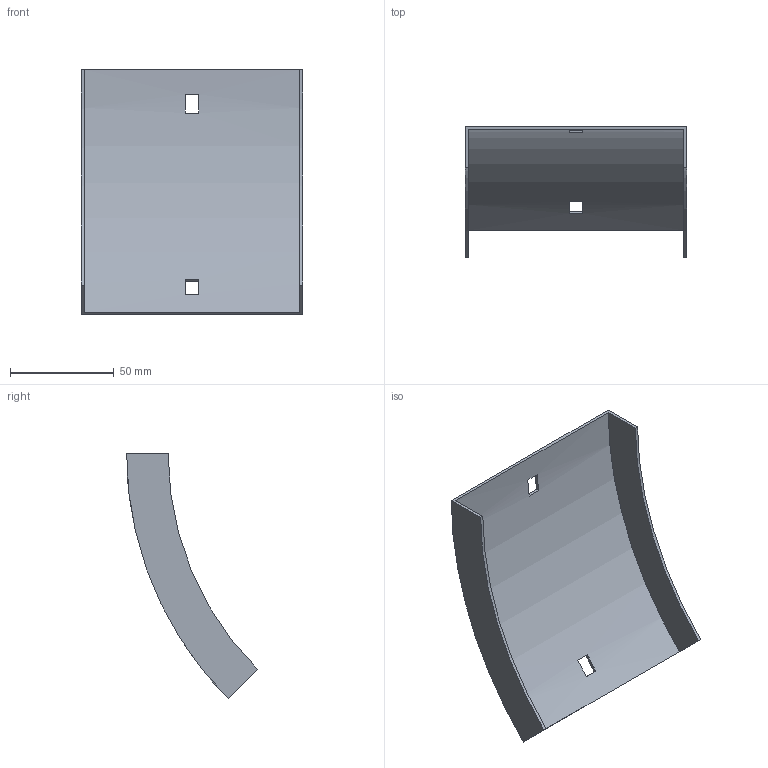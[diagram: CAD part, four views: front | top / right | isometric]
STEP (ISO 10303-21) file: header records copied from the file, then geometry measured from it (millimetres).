
FILE_DESCRIPTION (( 'STEP AP214' ), '1' );
FILE_NAME ('34N1H100.step', '2025-02-21T09:15:20', ( '' ), ( '' ), 'SwSTEP 2.0', 'SolidWorks 2023', '' );
FILE_SCHEMA (( 'AUTOMOTIVE_DESIGN' ));
Length unit declared in the file: millimetre
Products named in the file (1): 34N1H100
Bounding box: 107 x 63.06 x 118.09 mm (x, y, z)
Volume: 27591.4 mm3; surface area: 37662.1 mm2
Topology: 1 solids, 1 shells, 18 faces, 48 edges, 32 vertices
Faces by surface type: plane 14, cylinder 4
Entity records: 599 total; most frequent: DIRECTION 102, CARTESIAN_POINT 99, ORIENTED_EDGE 96, EDGE_CURVE 48, AXIS2_PLACEMENT_3D 35, VERTEX_POINT 32, VECTOR 32, LINE 32
